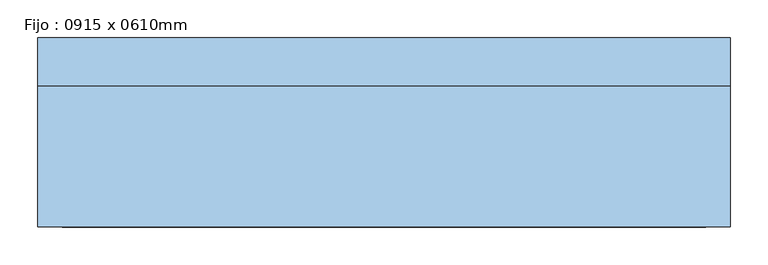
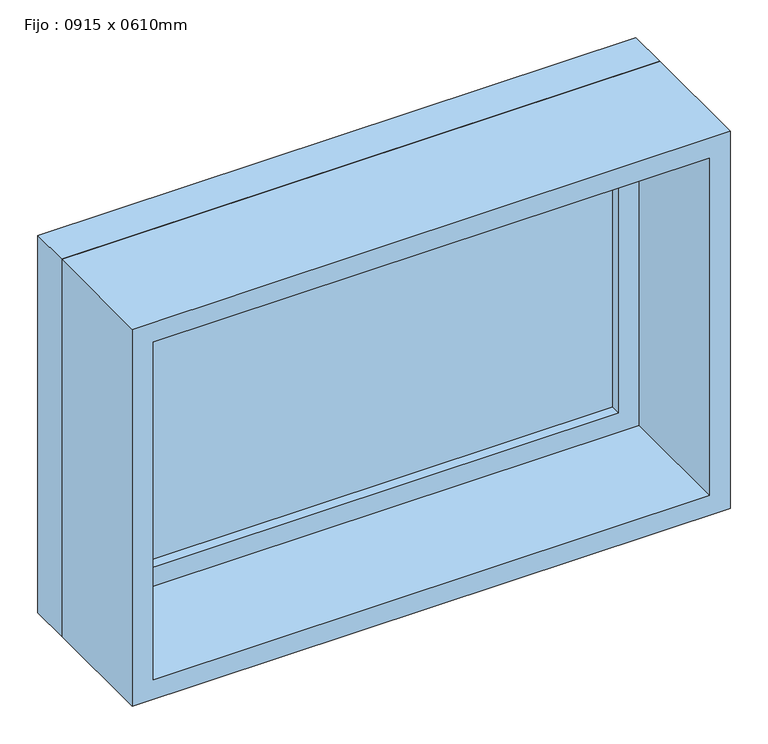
"""IFC4 building model written with IfcOpenShell, lengths in millimetres: window geometry, Fijo : 0915 x 0610mm."""

from ifc_helpers import new_model, si_unit, frame, origin, place, context, project, spatial, polyline, outline, extrude, source, transform, mapped, element, save


def fijo_0915_x_0610mm_10d5d36a(model_context):
    return source(origin(), model_context, "Body", "SweptSolid", [
        extrude(outline(polyline([(-394.5, 103.0), (394.5, 103.0), (394.5, 91.0), (-394.5, 91.0), (-394.5, 103.0)])), frame((0.0, 0.0, 978.0), z_axis=(0.0, 0.0, 1.0), x_axis=(1.0, 0.0, 0.0)), (0.0, 0.0, 1.0), 484.0),
        extrude(outline(polyline([(1506.0, -438.5), (934.0, -438.5), (934.0, 438.5), (1506.0, 438.5), (1506.0, -438.5)]), holes=[polyline([(1462.0, -394.5), (1462.0, 394.5), (978.0, 394.5), (978.0, -394.5), (1462.0, -394.5)])]), frame((0.0, 75.0, 0.0), z_axis=(0.0, 1.0, 0.0), x_axis=(0.0, 0.0, 1.0)), (0.0, 0.0, 1.0), 44.0),
        extrude(outline(polyline([(1525.0, -457.5), (915.0, -457.5), (915.0, 457.5), (1525.0, 457.5), (1525.0, -457.5)]), holes=[polyline([(1506.0, -438.5), (1506.0, 438.5), (934.0, 438.5), (934.0, -438.5), (1506.0, -438.5)])]), frame((0.0, 75.0, 0.0), z_axis=(0.0, 1.0, 0.0), x_axis=(0.0, 0.0, 1.0)), (0.0, 0.0, 1.0), 63.0),
        extrude(outline(polyline([(1525.0, -457.5), (915.0, -457.5), (915.0, 457.5), (1525.0, 457.5), (1525.0, -457.5)]), holes=[polyline([(1493.0, -425.5), (1493.0, 425.5), (947.0, 425.5), (947.0, -425.5), (1493.0, -425.5)])]), frame((0.0, -112.0, 0.0), z_axis=(0.0, 1.0, 0.0), x_axis=(0.0, 0.0, 1.0)), (0.0, 0.0, 1.0), 187.0),
    ])


if __name__ == "__main__":
    model = new_model("IFC4")
    model_context = context("Model", 3, world=origin())
    ifc_project = project(units=[si_unit("LENGTHUNIT", "METRE", prefix="MILLI")], contexts=[model_context])
    site = spatial("IfcSite", under=ifc_project)
    building = spatial("IfcBuilding", under=site)
    placement = place(None, origin())
    fijo_0915_x_0610mm_shape = fijo_0915_x_0610mm_10d5d36a(model_context)
    element("IfcWindow", 1, ObjectType="Fijo : 0915 x 0610mm", at=placement, inside=building, context=model_context, shape_type="MappedRepresentation", body=[
        mapped(fijo_0915_x_0610mm_shape, transform((0.0, 0.0, 0.0), x_axis=(1.0, 0.0, 0.0), y_axis=(0.0, 1.0, 0.0), z_axis=(0.0, 0.0, 1.0))),
    ])
    save(model, "model.ifc")
